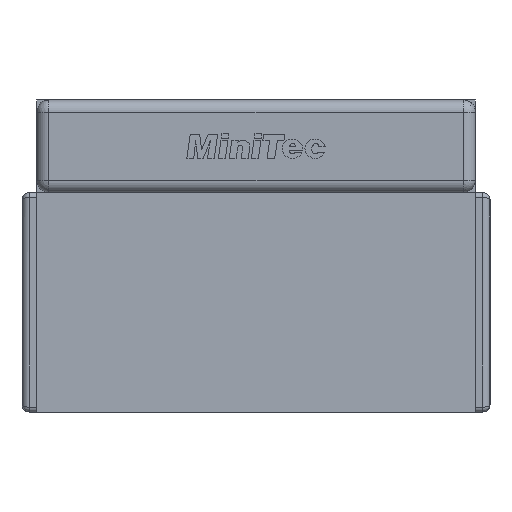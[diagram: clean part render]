
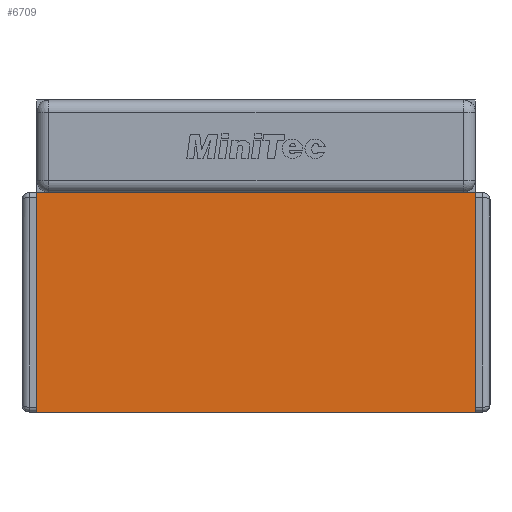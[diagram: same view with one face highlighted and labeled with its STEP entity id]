
A CAD part, left-side view. The second image highlights one B-rep face of the part: STEP entity #6709.
In plain terms, the highlighted planar face has unit normal (-1, 0, 0) as drawn and (0, 1, 0) by its records, which use the part's own axes.
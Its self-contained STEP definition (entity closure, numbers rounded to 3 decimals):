
#6148=CARTESIAN_POINT('',(-22.5,9.5,-44.996));
#6149=VERTEX_POINT('',#6148);
#6156=CARTESIAN_POINT('',(22.5,9.5,-44.996));
#6157=VERTEX_POINT('',#6156);
#6158=CARTESIAN_POINT('',(22.5,9.5,-44.996));
#6159=DIRECTION('',(-1.0,0.0,0.0));
#6160=VECTOR('',#6159,45.);
#6161=LINE('',#6158,#6160);
#6162=EDGE_CURVE('',#6157,#6149,#6161,.T.);
#6667=CARTESIAN_POINT('',(-22.5,9.5,44.996));
#6668=VERTEX_POINT('',#6667);
#6675=CARTESIAN_POINT('',(-22.5,9.5,-44.996));
#6676=DIRECTION('',(0.0,0.0,1.0));
#6677=VECTOR('',#6676,89.992);
#6678=LINE('',#6675,#6677);
#6679=EDGE_CURVE('',#6149,#6668,#6678,.T.);
#6686=CARTESIAN_POINT('',(-22.5,9.5,0.0));
#6687=DIRECTION('',(0.0,1.0,0.0));
#6688=DIRECTION('',(0.0,0.0,1.0));
#6689=AXIS2_PLACEMENT_3D('',#6686,#6687,#6688);
#6690=PLANE('',#6689);
#6691=CARTESIAN_POINT('',(22.5,9.5,44.996));
#6692=VERTEX_POINT('',#6691);
#6693=CARTESIAN_POINT('',(-22.5,9.5,44.996));
#6694=DIRECTION('',(1.0,0.0,0.0));
#6695=VECTOR('',#6694,45.);
#6696=LINE('',#6693,#6695);
#6697=EDGE_CURVE('',#6668,#6692,#6696,.T.);
#6698=ORIENTED_EDGE('',*,*,#6697,.T.);
#6699=CARTESIAN_POINT('',(22.5,9.5,-44.996));
#6700=DIRECTION('',(0.0,0.0,1.0));
#6701=VECTOR('',#6700,89.992);
#6702=LINE('',#6699,#6701);
#6703=EDGE_CURVE('',#6157,#6692,#6702,.T.);
#6704=ORIENTED_EDGE('',*,*,#6703,.F.);
#6705=ORIENTED_EDGE('',*,*,#6162,.T.);
#6706=ORIENTED_EDGE('',*,*,#6679,.T.);
#6707=EDGE_LOOP('',(#6698,#6704,#6705,#6706));
#6708=FACE_OUTER_BOUND('',#6707,.T.);
#6709=ADVANCED_FACE('',(#6708),#6690,.T.);
